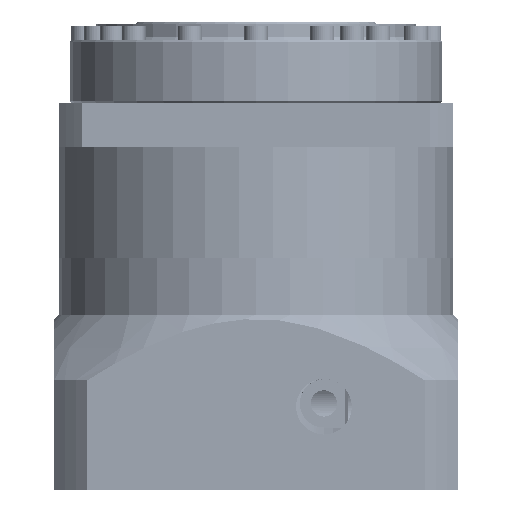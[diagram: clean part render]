
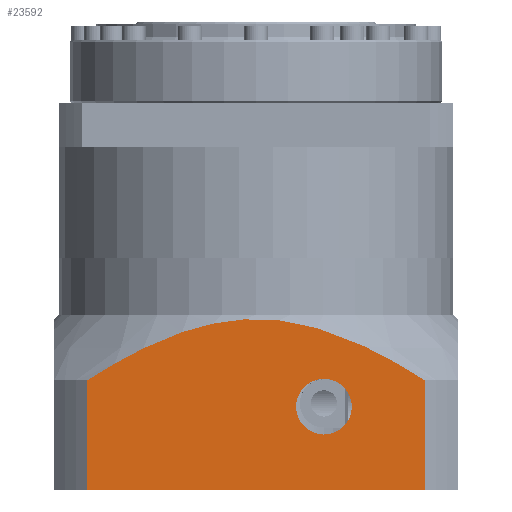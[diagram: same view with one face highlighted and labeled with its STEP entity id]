
A CAD part, left-side view. The second image highlights one B-rep face of the part: STEP entity #23592.
In plain terms, the highlighted planar face has unit normal (-1, 0, 0).
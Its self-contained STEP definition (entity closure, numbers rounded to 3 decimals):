
#23284 = EDGE_LOOP ( 'NONE', ( #23602, #23391 ) ) ;
#23296 = EDGE_CURVE ( 'NONE', #41462, #41376, #67968, .T. ) ;
#23391 = ORIENTED_EDGE ( 'NONE', *, *, #41427, .F. ) ;
#23592 = ADVANCED_FACE ( 'NONE', ( #68180, #68139 ), #68192, .T. ) ;
#23602 = ORIENTED_EDGE ( 'NONE', *, *, #23296, .F. ) ;
#23617 = EDGE_LOOP ( 'NONE', ( #23948, #23940, #24135, #24142 ) ) ;
#23824 = VERTEX_POINT ( 'NONE', #68428 ) ;
#23833 = VERTEX_POINT ( 'NONE', #68423 ) ;
#23940 = ORIENTED_EDGE ( 'NONE', *, *, #23951, .T. ) ;
#23948 = ORIENTED_EDGE ( 'NONE', *, *, #24079, .T. ) ;
#23951 = EDGE_CURVE ( 'NONE', #23833, #23824, #68535, .T. ) ;
#24079 = EDGE_CURVE ( 'NONE', #24082, #23833, #68665, .T. ) ;
#24082 = VERTEX_POINT ( 'NONE', #68634 ) ;
#24092 = EDGE_CURVE ( 'NONE', #23824, #24095, #68710, .T. ) ;
#24095 = VERTEX_POINT ( 'NONE', #68711 ) ;
#24135 = ORIENTED_EDGE ( 'NONE', *, *, #24092, .T. ) ;
#24137 = EDGE_CURVE ( 'NONE', #24082, #24095, #68660, .T. ) ;
#24142 = ORIENTED_EDGE ( 'NONE', *, *, #24137, .F. ) ;
#41376 = VERTEX_POINT ( 'NONE', #97006 ) ;
#41427 = EDGE_CURVE ( 'NONE', #41376, #41462, #97285, .T. ) ;
#41462 = VERTEX_POINT ( 'NONE', #97383 ) ;
#67964 = DIRECTION ( 'NONE',  ( 0., 0., -1. ) ) ;
#67965 = DIRECTION ( 'NONE',  ( -1., 0., 0. ) ) ;
#67966 = CARTESIAN_POINT ( 'NONE',  ( -46., -15.5, -90.557 ) ) ;
#67968 = CIRCLE ( 'NONE', #67972, 6.35 ) ;
#67972 = AXIS2_PLACEMENT_3D ( 'NONE', #67966, #67965, #67964 ) ;
#68139 = FACE_OUTER_BOUND ( 'NONE', #23617, .T. ) ;
#68167 = DIRECTION ( 'NONE',  ( 0., 0., -1. ) ) ;
#68168 = DIRECTION ( 'NONE',  ( -1., 0., 0. ) ) ;
#68169 = CARTESIAN_POINT ( 'NONE',  ( -46., -46., -79.557 ) ) ;
#68170 = AXIS2_PLACEMENT_3D ( 'NONE', #68169, #68168, #68167 ) ;
#68180 = FACE_BOUND ( 'NONE', #23284, .T. ) ;
#68192 = PLANE ( 'NONE',  #68170 ) ;
#68423 = CARTESIAN_POINT ( 'NONE',  ( -46., -38.523, -84.557 ) ) ;
#68428 = CARTESIAN_POINT ( 'NONE',  ( -46., 38.523, -84.557 ) ) ;
#68535 = B_SPLINE_CURVE_WITH_KNOTS ( 'NONE', 3,
 ( #68545, #68544, #68543, #68542, #68541, #68540, #68539, #68538, #68590, #68589, #68588, #68587, #68585, #68584, #68583, #68582, #68581, #68580, #68579, #68578, #68577, #68576, #68575, #68574, #68573, #68572, #68571, #68570, #68569, #68568 ),
 .UNSPECIFIED., .F., .F.,
 ( 4, 2, 2, 2, 2, 2, 2, 2, 2, 2, 2, 2, 2, 2, 4 ),
 ( 0.062, 0.072, 0.077, 0.082, 0.093, 0.095, 0.098, 0.103, 0.108, 0.111, 0.113, 0.124, 0.129, 0.134, 0.144 ),
 .UNSPECIFIED. ) ;
#68538 = CARTESIAN_POINT ( 'NONE',  ( -46., -17.018, -73.516 ) ) ;
#68539 = CARTESIAN_POINT ( 'NONE',  ( -46., -21.823, -75.449 ) ) ;
#68540 = CARTESIAN_POINT ( 'NONE',  ( -46., -23.404, -76.15 ) ) ;
#68541 = CARTESIAN_POINT ( 'NONE',  ( -46., -26.534, -77.643 ) ) ;
#68542 = CARTESIAN_POINT ( 'NONE',  ( -46., -28.087, -78.438 ) ) ;
#68543 = CARTESIAN_POINT ( 'NONE',  ( -46., -32.667, -80.917 ) ) ;
#68544 = CARTESIAN_POINT ( 'NONE',  ( -46., -35.626, -82.696 ) ) ;
#68545 = CARTESIAN_POINT ( 'NONE',  ( -46., -38.523, -84.557 ) ) ;
#68568 = CARTESIAN_POINT ( 'NONE',  ( -46., 38.523, -84.557 ) ) ;
#68569 = CARTESIAN_POINT ( 'NONE',  ( -46., 35.619, -82.693 ) ) ;
#68570 = CARTESIAN_POINT ( 'NONE',  ( -46., 32.655, -80.91 ) ) ;
#68571 = CARTESIAN_POINT ( 'NONE',  ( -46., 28.066, -78.427 ) ) ;
#68572 = CARTESIAN_POINT ( 'NONE',  ( -46., 26.519, -77.636 ) ) ;
#68573 = CARTESIAN_POINT ( 'NONE',  ( -46., 23.394, -76.145 ) ) ;
#68574 = CARTESIAN_POINT ( 'NONE',  ( -46., 21.815, -75.446 ) ) ;
#68575 = CARTESIAN_POINT ( 'NONE',  ( -46., 17.014, -73.515 ) ) ;
#68576 = CARTESIAN_POINT ( 'NONE',  ( -46., 13.731, -72.447 ) ) ;
#68577 = CARTESIAN_POINT ( 'NONE',  ( -46., 9.478, -71.516 ) ) ;
#68578 = CARTESIAN_POINT ( 'NONE',  ( -46., 8.617, -71.349 ) ) ;
#68579 = CARTESIAN_POINT ( 'NONE',  ( -46., 6.894, -71.063 ) ) ;
#68580 = CARTESIAN_POINT ( 'NONE',  ( -46., 6.033, -70.943 ) ) ;
#68581 = CARTESIAN_POINT ( 'NONE',  ( -46., 3.447, -70.654 ) ) ;
#68582 = CARTESIAN_POINT ( 'NONE',  ( -46., 1.723, -70.556 ) ) ;
#68583 = CARTESIAN_POINT ( 'NONE',  ( -46., -1.727, -70.557 ) ) ;
#68584 = CARTESIAN_POINT ( 'NONE',  ( -46., -3.453, -70.654 ) ) ;
#68585 = CARTESIAN_POINT ( 'NONE',  ( -46., -6.042, -70.944 ) ) ;
#68587 = CARTESIAN_POINT ( 'NONE',  ( -46., -6.906, -71.064 ) ) ;
#68588 = CARTESIAN_POINT ( 'NONE',  ( -46., -8.633, -71.352 ) ) ;
#68589 = CARTESIAN_POINT ( 'NONE',  ( -46., -9.49, -71.518 ) ) ;
#68590 = CARTESIAN_POINT ( 'NONE',  ( -46., -13.736, -72.449 ) ) ;
#68634 = CARTESIAN_POINT ( 'NONE',  ( -46., -38.523, -109.557 ) ) ;
#68660 = LINE ( 'NONE', #68743, #68742 ) ;
#68662 = DIRECTION ( 'NONE',  ( 0., 0., 1. ) ) ;
#68663 = VECTOR ( 'NONE', #68662, 1000. ) ;
#68664 = CARTESIAN_POINT ( 'NONE',  ( -46., -38.523, -50.057 ) ) ;
#68665 = LINE ( 'NONE', #68664, #68663 ) ;
#68707 = DIRECTION ( 'NONE',  ( 0., 0., -1. ) ) ;
#68708 = VECTOR ( 'NONE', #68707, 1000. ) ;
#68709 = CARTESIAN_POINT ( 'NONE',  ( -46., 38.523, -50.057 ) ) ;
#68710 = LINE ( 'NONE', #68709, #68708 ) ;
#68711 = CARTESIAN_POINT ( 'NONE',  ( -46., 38.523, -109.557 ) ) ;
#68741 = DIRECTION ( 'NONE',  ( 0., 1., 0. ) ) ;
#68742 = VECTOR ( 'NONE', #68741, 1000. ) ;
#68743 = CARTESIAN_POINT ( 'NONE',  ( -46., -46., -109.557 ) ) ;
#97006 = CARTESIAN_POINT ( 'NONE',  ( -46., -9.15, -90.557 ) ) ;
#97276 = DIRECTION ( 'NONE',  ( 0., 0., -1. ) ) ;
#97277 = DIRECTION ( 'NONE',  ( -1., 0., 0. ) ) ;
#97278 = CARTESIAN_POINT ( 'NONE',  ( -46., -15.5, -90.557 ) ) ;
#97285 = CIRCLE ( 'NONE', #97291, 6.35 ) ;
#97291 = AXIS2_PLACEMENT_3D ( 'NONE', #97278, #97277, #97276 ) ;
#97383 = CARTESIAN_POINT ( 'NONE',  ( -46., -21.85, -90.557 ) ) ;
